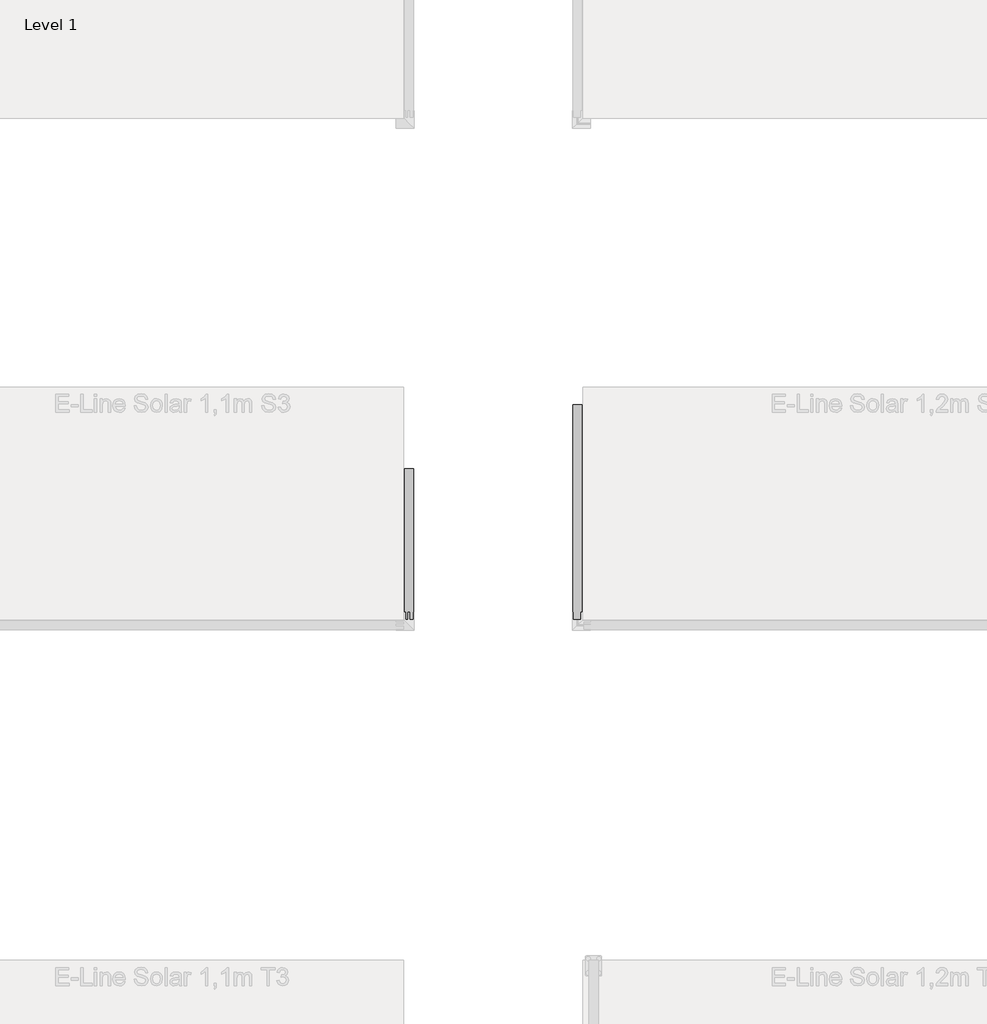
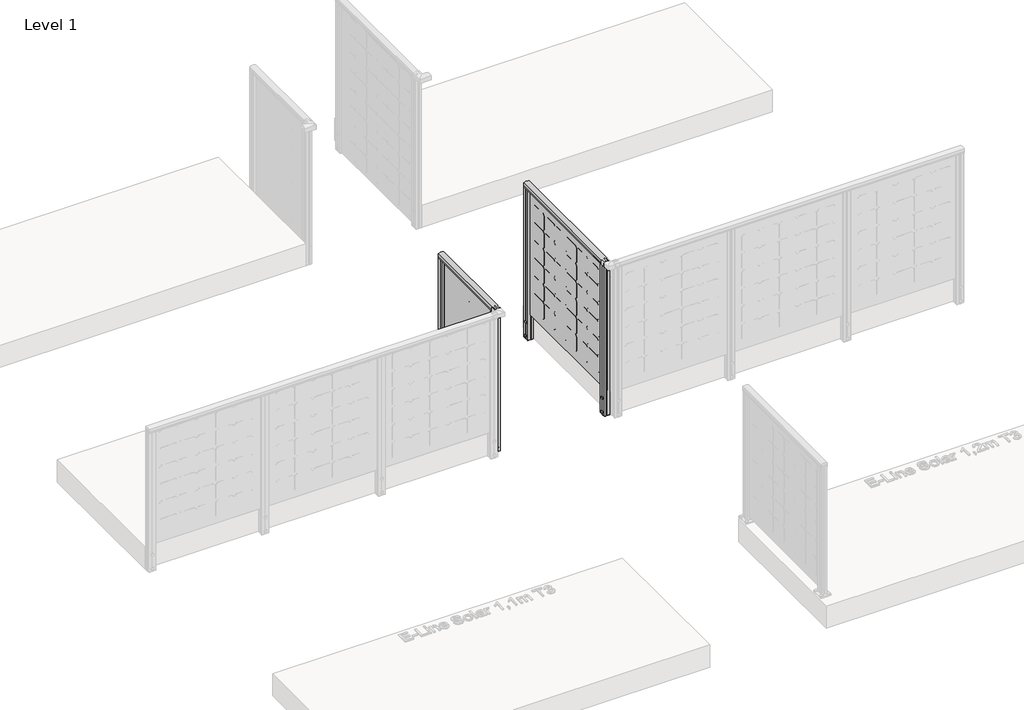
# One storey, part 40 of 66: 2 railings.
"""IFC4 building model written with IfcOpenShell, lengths in millimetres."""

from ifc_helpers import new_model, si_unit, point, frame, frame_2d, origin, place, context, project, spatial, polyline, circle_curve, trimmed, segment, composite_curve, outline, extrude, element, save

model = new_model("IFC4")

# Units and contexts
model_context = context("Model", 3, world=origin())
ifc_project = project(units=[si_unit("LENGTHUNIT", "METRE", prefix="MILLI")], contexts=[model_context])

# Site, building, storey
site = spatial("IfcSite", under=ifc_project)
building = spatial("IfcBuilding", under=site)
storey = spatial("IfcBuildingStorey", under=building, Name="Level 1", Elevation=0.0)

# Railings
placement = place(None, origin())
element("IfcRailing", 1, ObjectType="E-Line Solar 1,2m S3 6 columns of solar elements", at=placement, inside=storey, context=model_context, shape_type="SweptSolid", body=[
    extrude(outline(composite_curve([segment(trimmed(circle_curve(frame_2d((1142.6785502, 23265.8109342)), 57.3235687), [point((1194.1390059, 23291.0658945))], [point((1194.1342258, 23240.5462362))], False, "CARTESIAN"), True, "CONTINUOUS"), segment(polyline([(1194.1342258, 23240.5462362), (1167.0235023, 23240.5462362), (1166.4415706, 23241.128168), (1165.8194895, 23240.5060869), (1157.2498847, 23240.5060869), (1157.2498847, 23242.3110398), (1180.4998829, 23242.3110398), (1180.4998829, 23289.306086), (1157.2498847, 23289.306086), (1157.2498847, 23291.0658945), (1165.9694895, 23291.0658945), (1166.5842725, 23290.4511115), (1167.1990555, 23291.0658945), (1194.1390059, 23291.0658945)]), True, "CONTINUOUS")], self_intersect=False)), frame((0.0, 223.8815979, 0.0), z_axis=(0.0, 1.0, 0.0), x_axis=(0.0, 0.0, 1.0)), (0.0, 0.0, 1.0), 1195.0),
    extrude(outline(polyline([(23262.1463105, 1418.8815979), (23270.9063105, 1418.8815979), (23270.9063105, 223.8815979), (23262.1463105, 223.8815979), (23262.1463105, 1418.8815979)])), frame((0.0, 0.0, 28.0), z_axis=(0.0, 0.0, 1.0), x_axis=(1.0, 0.0, 0.0)), (0.0, 0.0, 1.0), 1152.0),
    extrude(outline(polyline([(0.0, 0.0), (-16.036927, 16.036927), (-16.036927, 139.963073), (0.0, 156.0), (123.9261459, 156.0), (139.963073, 139.963073), (139.963073, 16.036927), (123.9261459, 0.0), (0.0, 0.0)])), frame((23262.0263105, 1145.8815979, 1049.4156895), z_axis=(1.0, -5.811291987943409e-12, 0.0), x_axis=(0.0, 0.0, -1.0)), (0.0, 0.0, 1.0), 1.0),
    extrude(outline(polyline([(0.0, 0.0), (-16.036927, 16.036927), (-16.036927, 139.963073), (0.0, 156.0), (123.9261459, 156.0), (139.963073, 139.963073), (139.963073, 16.036927), (123.9261459, 0.0), (0.0, 0.0)])), frame((23262.0263105, 984.8815979, 1049.4156895), z_axis=(1.0, -5.811291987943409e-12, 0.0), x_axis=(0.0, 0.0, -1.0)), (0.0, 0.0, 1.0), 1.0),
    extrude(outline(polyline([(0.0, 0.0), (-16.036927, 16.036927), (-16.036927, 139.963073), (0.0, 156.0), (123.9261459, 156.0), (139.963073, 139.963073), (139.963073, 16.036927), (123.9261459, 0.0), (0.0, 0.0)])), frame((23262.0263105, 823.8815979, 1049.4156895), z_axis=(1.0, -5.811291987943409e-12, 0.0), x_axis=(0.0, 0.0, -1.0)), (0.0, 0.0, 1.0), 1.0),
    extrude(outline(polyline([(0.0, 0.0), (-16.036927, 16.036927), (-16.036927, 139.963073), (0.0, 156.0), (123.9261459, 156.0), (139.963073, 139.963073), (139.963073, 16.036927), (123.9261459, 0.0), (0.0, 0.0)])), frame((23262.0263105, 340.8815979, 1049.4156895), z_axis=(1.0, -5.811291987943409e-12, 0.0), x_axis=(0.0, 0.0, -1.0)), (0.0, 0.0, 1.0), 1.0),
    extrude(outline(polyline([(0.0, 0.0), (-16.036927, 16.036927), (-16.036927, 139.963073), (0.0, 156.0), (123.9261459, 156.0), (139.963073, 139.963073), (139.963073, 16.036927), (123.9261459, 0.0), (0.0, 0.0)])), frame((23262.0263105, 501.8815979, 1049.4156895), z_axis=(1.0, -5.811291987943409e-12, 0.0), x_axis=(0.0, 0.0, -1.0)), (0.0, 0.0, 1.0), 1.0),
    extrude(outline(polyline([(0.0, 0.0), (-16.036927, 16.036927), (-16.036927, 139.963073), (0.0, 156.0), (123.9261459, 156.0), (139.963073, 139.963073), (139.963073, 16.036927), (123.9261459, 0.0), (0.0, 0.0)])), frame((23262.0263105, 662.8815979, 1049.4156895), z_axis=(1.0, -5.811291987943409e-12, 0.0), x_axis=(0.0, 0.0, -1.0)), (0.0, 0.0, 1.0), 1.0),
    extrude(outline(polyline([(0.0, 0.0), (-16.036927, 16.036927), (-16.036927, 139.963073), (0.0, 156.0), (123.9261459, 156.0), (139.963073, 139.963073), (139.963073, 16.036927), (123.9261459, 0.0), (0.0, 0.0)])), frame((23262.0263105, 1145.8815979, 888.4156895), z_axis=(1.0, -5.811291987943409e-12, 0.0), x_axis=(0.0, 0.0, -1.0)), (0.0, 0.0, 1.0), 1.0),
    extrude(outline(polyline([(0.0, 0.0), (-16.036927, 16.036927), (-16.036927, 139.963073), (0.0, 156.0), (123.9261459, 156.0), (139.963073, 139.963073), (139.963073, 16.036927), (123.9261459, 0.0), (0.0, 0.0)])), frame((23262.0263105, 1145.8815979, 727.4156895), z_axis=(1.0, -5.811291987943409e-12, 0.0), x_axis=(0.0, 0.0, -1.0)), (0.0, 0.0, 1.0), 1.0),
    extrude(outline(polyline([(0.0, 0.0), (-16.036927, 16.036927), (-16.036927, 139.963073), (0.0, 156.0), (123.9261459, 156.0), (139.963073, 139.963073), (139.963073, 16.036927), (123.9261459, 0.0), (0.0, 0.0)])), frame((23262.0263105, 1145.8815979, 566.4156895), z_axis=(1.0, -5.811291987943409e-12, 0.0), x_axis=(0.0, 0.0, -1.0)), (0.0, 0.0, 1.0), 1.0),
    extrude(outline(polyline([(0.0, 0.0), (-16.036927, 16.036927), (-16.036927, 139.963073), (0.0, 156.0), (123.9261459, 156.0), (139.963073, 139.963073), (139.963073, 16.036927), (123.9261459, 0.0), (0.0, 0.0)])), frame((23262.0263105, 1145.8815979, 405.4156895), z_axis=(1.0, -5.811291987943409e-12, 0.0), x_axis=(0.0, 0.0, -1.0)), (0.0, 0.0, 1.0), 1.0),
    extrude(outline(polyline([(0.0, 0.0), (-16.036927, 16.036927), (-16.036927, 139.963073), (0.0, 156.0), (123.9261459, 156.0), (139.963073, 139.963073), (139.963073, 16.036927), (123.9261459, 0.0), (0.0, 0.0)])), frame((23262.0263105, 1145.8815979, 244.4156895), z_axis=(1.0, -5.811291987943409e-12, 0.0), x_axis=(0.0, 0.0, -1.0)), (0.0, 0.0, 1.0), 1.0),
    extrude(outline(polyline([(0.0, 0.0), (-16.036927, 16.036927), (-16.036927, 139.963073), (0.0, 156.0), (123.9261459, 156.0), (139.963073, 139.963073), (139.963073, 16.036927), (123.9261459, 0.0), (0.0, 0.0)])), frame((23262.0263105, 984.8815979, 888.4156895), z_axis=(1.0, -5.811291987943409e-12, 0.0), x_axis=(0.0, 0.0, -1.0)), (0.0, 0.0, 1.0), 1.0),
    extrude(outline(polyline([(0.0, 0.0), (-16.036927, 16.036927), (-16.036927, 139.963073), (0.0, 156.0), (123.9261459, 156.0), (139.963073, 139.963073), (139.963073, 16.036927), (123.9261459, 0.0), (0.0, 0.0)])), frame((23262.0263105, 984.8815979, 727.4156895), z_axis=(1.0, -5.811291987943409e-12, 0.0), x_axis=(0.0, 0.0, -1.0)), (0.0, 0.0, 1.0), 1.0),
    extrude(outline(polyline([(0.0, 0.0), (-16.036927, 16.036927), (-16.036927, 139.963073), (0.0, 156.0), (123.9261459, 156.0), (139.963073, 139.963073), (139.963073, 16.036927), (123.9261459, 0.0), (0.0, 0.0)])), frame((23262.0263105, 984.8815979, 566.4156895), z_axis=(1.0, -5.811291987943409e-12, 0.0), x_axis=(0.0, 0.0, -1.0)), (0.0, 0.0, 1.0), 1.0),
    extrude(outline(polyline([(0.0, 0.0), (-16.036927, 16.036927), (-16.036927, 139.963073), (0.0, 156.0), (123.9261459, 156.0), (139.963073, 139.963073), (139.963073, 16.036927), (123.9261459, 0.0), (0.0, 0.0)])), frame((23262.0263105, 984.8815979, 405.4156895), z_axis=(1.0, -5.811291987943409e-12, 0.0), x_axis=(0.0, 0.0, -1.0)), (0.0, 0.0, 1.0), 1.0),
    extrude(outline(polyline([(0.0, 0.0), (-16.036927, 16.036927), (-16.036927, 139.963073), (0.0, 156.0), (123.9261459, 156.0), (139.963073, 139.963073), (139.963073, 16.036927), (123.9261459, 0.0), (0.0, 0.0)])), frame((23262.0263105, 984.8815979, 244.4156895), z_axis=(1.0, -5.811291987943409e-12, 0.0), x_axis=(0.0, 0.0, -1.0)), (0.0, 0.0, 1.0), 1.0),
    extrude(outline(polyline([(0.0, 0.0), (-16.036927, 16.036927), (-16.036927, 139.963073), (0.0, 156.0), (123.9261459, 156.0), (139.963073, 139.963073), (139.963073, 16.036927), (123.9261459, 0.0), (0.0, 0.0)])), frame((23262.0263105, 823.8815979, 888.4156895), z_axis=(1.0, -5.811291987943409e-12, 0.0), x_axis=(0.0, 0.0, -1.0)), (0.0, 0.0, 1.0), 1.0),
    extrude(outline(polyline([(0.0, 0.0), (-16.036927, 16.036927), (-16.036927, 139.963073), (0.0, 156.0), (123.9261459, 156.0), (139.963073, 139.963073), (139.963073, 16.036927), (123.9261459, 0.0), (0.0, 0.0)])), frame((23262.0263105, 823.8815979, 727.4156895), z_axis=(1.0, -5.811291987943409e-12, 0.0), x_axis=(0.0, 0.0, -1.0)), (0.0, 0.0, 1.0), 1.0),
    extrude(outline(polyline([(0.0, 0.0), (-16.036927, 16.036927), (-16.036927, 139.963073), (0.0, 156.0), (123.9261459, 156.0), (139.963073, 139.963073), (139.963073, 16.036927), (123.9261459, 0.0), (0.0, 0.0)])), frame((23262.0263105, 823.8815979, 566.4156895), z_axis=(1.0, -5.811291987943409e-12, 0.0), x_axis=(0.0, 0.0, -1.0)), (0.0, 0.0, 1.0), 1.0),
    extrude(outline(polyline([(0.0, 0.0), (-16.036927, 16.036927), (-16.036927, 139.963073), (0.0, 156.0), (123.9261459, 156.0), (139.963073, 139.963073), (139.963073, 16.036927), (123.9261459, 0.0), (0.0, 0.0)])), frame((23262.0263105, 823.8815979, 405.4156895), z_axis=(1.0, -5.811291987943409e-12, 0.0), x_axis=(0.0, 0.0, -1.0)), (0.0, 0.0, 1.0), 1.0),
    extrude(outline(polyline([(0.0, 0.0), (-16.036927, 16.036927), (-16.036927, 139.963073), (0.0, 156.0), (123.9261459, 156.0), (139.963073, 139.963073), (139.963073, 16.036927), (123.9261459, 0.0), (0.0, 0.0)])), frame((23262.0263105, 823.8815979, 244.4156895), z_axis=(1.0, -5.811291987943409e-12, 0.0), x_axis=(0.0, 0.0, -1.0)), (0.0, 0.0, 1.0), 1.0),
    extrude(outline(polyline([(0.0, 0.0), (-16.036927, 16.036927), (-16.036927, 139.963073), (0.0, 156.0), (123.9261459, 156.0), (139.963073, 139.963073), (139.963073, 16.036927), (123.9261459, 0.0), (0.0, 0.0)])), frame((23262.0263105, 340.8815979, 888.4156895), z_axis=(1.0, -5.811291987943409e-12, 0.0), x_axis=(0.0, 0.0, -1.0)), (0.0, 0.0, 1.0), 1.0),
    extrude(outline(polyline([(0.0, 0.0), (-16.036927, 16.036927), (-16.036927, 139.963073), (0.0, 156.0), (123.9261459, 156.0), (139.963073, 139.963073), (139.963073, 16.036927), (123.9261459, 0.0), (0.0, 0.0)])), frame((23262.0263105, 340.8815979, 727.4156895), z_axis=(1.0, -5.811291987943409e-12, 0.0), x_axis=(0.0, 0.0, -1.0)), (0.0, 0.0, 1.0), 1.0),
    extrude(outline(polyline([(0.0, 0.0), (-16.036927, 16.036927), (-16.036927, 139.963073), (0.0, 156.0), (123.9261459, 156.0), (139.963073, 139.963073), (139.963073, 16.036927), (123.9261459, 0.0), (0.0, 0.0)])), frame((23262.0263105, 340.8815979, 566.4156895), z_axis=(1.0, -5.811291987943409e-12, 0.0), x_axis=(0.0, 0.0, -1.0)), (0.0, 0.0, 1.0), 1.0),
    extrude(outline(polyline([(0.0, 0.0), (-16.036927, 16.036927), (-16.036927, 139.963073), (0.0, 156.0), (123.9261459, 156.0), (139.963073, 139.963073), (139.963073, 16.036927), (123.9261459, 0.0), (0.0, 0.0)])), frame((23262.0263105, 340.8815979, 405.4156895), z_axis=(1.0, -5.811291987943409e-12, 0.0), x_axis=(0.0, 0.0, -1.0)), (0.0, 0.0, 1.0), 1.0),
    extrude(outline(polyline([(0.0, 0.0), (-16.036927, 16.036927), (-16.036927, 139.963073), (0.0, 156.0), (123.9261459, 156.0), (139.963073, 139.963073), (139.963073, 16.036927), (123.9261459, 0.0), (0.0, 0.0)])), frame((23262.0263105, 340.8815979, 244.4156895), z_axis=(1.0, -5.811291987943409e-12, 0.0), x_axis=(0.0, 0.0, -1.0)), (0.0, 0.0, 1.0), 1.0),
    extrude(outline(polyline([(0.0, 0.0), (-16.036927, 16.036927), (-16.036927, 139.963073), (0.0, 156.0), (123.9261459, 156.0), (139.963073, 139.963073), (139.963073, 16.036927), (123.9261459, 0.0), (0.0, 0.0)])), frame((23262.0263105, 501.8815979, 888.4156895), z_axis=(1.0, -5.811291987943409e-12, 0.0), x_axis=(0.0, 0.0, -1.0)), (0.0, 0.0, 1.0), 1.0),
    extrude(outline(polyline([(0.0, 0.0), (-16.036927, 16.036927), (-16.036927, 139.963073), (0.0, 156.0), (123.9261459, 156.0), (139.963073, 139.963073), (139.963073, 16.036927), (123.9261459, 0.0), (0.0, 0.0)])), frame((23262.0263105, 501.8815979, 727.4156895), z_axis=(1.0, -5.811291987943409e-12, 0.0), x_axis=(0.0, 0.0, -1.0)), (0.0, 0.0, 1.0), 1.0),
    extrude(outline(polyline([(0.0, 0.0), (-16.036927, 16.036927), (-16.036927, 139.963073), (0.0, 156.0), (123.9261459, 156.0), (139.963073, 139.963073), (139.963073, 16.036927), (123.9261459, 0.0), (0.0, 0.0)])), frame((23262.0263105, 501.8815979, 566.4156895), z_axis=(1.0, -5.811291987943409e-12, 0.0), x_axis=(0.0, 0.0, -1.0)), (0.0, 0.0, 1.0), 1.0),
    extrude(outline(polyline([(0.0, 0.0), (-16.036927, 16.036927), (-16.036927, 139.963073), (0.0, 156.0), (123.9261459, 156.0), (139.963073, 139.963073), (139.963073, 16.036927), (123.9261459, 0.0), (0.0, 0.0)])), frame((23262.0263105, 501.8815979, 405.4156895), z_axis=(1.0, -5.811291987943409e-12, 0.0), x_axis=(0.0, 0.0, -1.0)), (0.0, 0.0, 1.0), 1.0),
    extrude(outline(polyline([(0.0, 0.0), (-16.036927, 16.036927), (-16.036927, 139.963073), (0.0, 156.0), (123.9261459, 156.0), (139.963073, 139.963073), (139.963073, 16.036927), (123.9261459, 0.0), (0.0, 0.0)])), frame((23262.0263105, 501.8815979, 244.4156895), z_axis=(1.0, -5.811291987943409e-12, 0.0), x_axis=(0.0, 0.0, -1.0)), (0.0, 0.0, 1.0), 1.0),
    extrude(outline(polyline([(0.0, 0.0), (-16.036927, 16.036927), (-16.036927, 139.963073), (0.0, 156.0), (123.9261459, 156.0), (139.963073, 139.963073), (139.963073, 16.036927), (123.9261459, 0.0), (0.0, 0.0)])), frame((23262.0263105, 662.8815979, 888.4156895), z_axis=(1.0, -5.811291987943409e-12, 0.0), x_axis=(0.0, 0.0, -1.0)), (0.0, 0.0, 1.0), 1.0),
    extrude(outline(polyline([(0.0, 0.0), (-16.036927, 16.036927), (-16.036927, 139.963073), (0.0, 156.0), (123.9261459, 156.0), (139.963073, 139.963073), (139.963073, 16.036927), (123.9261459, 0.0), (0.0, 0.0)])), frame((23262.0263105, 662.8815979, 727.4156895), z_axis=(1.0, -5.811291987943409e-12, 0.0), x_axis=(0.0, 0.0, -1.0)), (0.0, 0.0, 1.0), 1.0),
    extrude(outline(polyline([(0.0, 0.0), (-16.036927, 16.036927), (-16.036927, 139.963073), (0.0, 156.0), (123.9261459, 156.0), (139.963073, 139.963073), (139.963073, 16.036927), (123.9261459, 0.0), (0.0, 0.0)])), frame((23262.0263105, 662.8815979, 566.4156895), z_axis=(1.0, -5.811291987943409e-12, 0.0), x_axis=(0.0, 0.0, -1.0)), (0.0, 0.0, 1.0), 1.0),
    extrude(outline(polyline([(0.0, 0.0), (-16.036927, 16.036927), (-16.036927, 139.963073), (0.0, 156.0), (123.9261459, 156.0), (139.963073, 139.963073), (139.963073, 16.036927), (123.9261459, 0.0), (0.0, 0.0)])), frame((23262.0263105, 662.8815979, 405.4156895), z_axis=(1.0, -5.811291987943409e-12, 0.0), x_axis=(0.0, 0.0, -1.0)), (0.0, 0.0, 1.0), 1.0),
    extrude(outline(polyline([(0.0, 0.0), (-16.036927, 16.036927), (-16.036927, 139.963073), (0.0, 156.0), (123.9261459, 156.0), (139.963073, 139.963073), (139.963073, 16.036927), (123.9261459, 0.0), (0.0, 0.0)])), frame((23262.0263105, 662.8815979, 244.4156895), z_axis=(1.0, -5.811291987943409e-12, 0.0), x_axis=(0.0, 0.0, -1.0)), (0.0, 0.0, 1.0), 1.0),
    extrude(outline(polyline([(23270.8721725, 223.883191), (23270.8747497, 241.3831908), (23262.1147498, 241.3844809), (23262.1121726, 223.8844811), (23244.0573652, 223.88714), (23244.0616532, 253.004127), (23244.9400753, 253.8822904), (23244.021743, 254.9201583), (23244.0260089, 283.8871452), (23262.1210087, 283.8844804), (23262.1184315, 266.3844806), (23270.8784314, 266.3831905), (23270.8810086, 283.8831903), (23288.9859597, 283.880524), (23288.9816865, 254.8640485), (23287.9932969, 253.87595), (23289.0214382, 252.8475058), (23289.0171723, 223.8805188), (23270.8721725, 223.883191)]), holes=[polyline([(23246.0202949, 262.6808129), (23246.0202949, 245.0868512), (23287.0228863, 245.0868512), (23287.0228863, 262.6808129), (23246.0202949, 262.6808129)]), polyline([(23272.878181, 281.8808127), (23272.878181, 264.682896), (23287.0257139, 264.682896), (23287.0257139, 281.8808127), (23272.878181, 281.8808127)]), polyline([(23246.0202949, 281.884775), (23246.0202949, 264.6868513), (23260.1207142, 264.6868513), (23260.1207142, 281.884775), (23246.0202949, 281.884775)]), polyline([(23272.872467, 243.0808132), (23272.872467, 225.8828965), (23287.0199999, 225.8828965), (23287.0199999, 243.0808132), (23272.872467, 243.0808132)]), polyline([(23245.9674673, 243.0847754), (23245.9674673, 225.8868587), (23260.1150002, 225.8868587), (23260.1150002, 243.0847754), (23245.9674673, 243.0847754)])]), frame((0.0, 0.0, -200.0), z_axis=(0.0, 0.0, 1.0), x_axis=(1.0, 0.0, 0.0)), (0.0, 0.0, 1.0), 1381.0),
    extrude(outline(polyline([(23270.8721725, 223.883191), (23270.8747497, 241.3831908), (23262.1147498, 241.3844809), (23262.1121726, 223.8844811), (23244.0573652, 223.88714), (23244.0616532, 253.004127), (23244.9400753, 253.8822904), (23244.021743, 254.9201583), (23244.0260089, 283.8871452), (23262.1210087, 283.8844804), (23262.1184315, 266.3844806), (23270.8784314, 266.3831905), (23270.8810086, 283.8831903), (23288.9859597, 283.880524), (23288.9816865, 254.8640485), (23287.9932969, 253.87595), (23289.0214382, 252.8475058), (23289.0171723, 223.8805188), (23270.8721725, 223.883191)])), frame((0.0, 0.0, -202.0233958), z_axis=(0.0, 0.0, 1.0), x_axis=(1.0, 0.0, 0.0)), (0.0, 0.0, 1.0), 2.0),
    extrude(outline(composite_curve([segment(trimmed(circle_curve(frame_2d((0.0, 12.0)), 12.0), [point((0.0, 23.9999999))], [point((0.0, 0.0))], False, "CARTESIAN"), True, "CONTINUOUS"), segment(trimmed(circle_curve(frame_2d((0.0, 12.0)), 12.0), [point((0.0, 0.0))], [point((0.0, 23.9999999))], False, "CARTESIAN"), True, "CONTINUOUS")], self_intersect=False)), frame((23244.0668454, 265.8906355, -175.0), z_axis=(-0.9999999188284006, 0.0004029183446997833, 0.0), x_axis=(0.0, 0.0, -1.0)), (0.0, 0.0, 1.0), 3.0757477),
    extrude(outline(composite_curve([segment(trimmed(circle_curve(frame_2d((0.0, 12.0)), 12.0), [point((0.0, 23.9999999))], [point((0.0, 0.0))], False, "CARTESIAN"), True, "CONTINUOUS"), segment(trimmed(circle_curve(frame_2d((0.0, 12.0)), 12.0), [point((0.0, 0.0))], [point((0.0, 23.9999999))], False, "CARTESIAN"), True, "CONTINUOUS")], self_intersect=False)), frame((23244.0668454, 265.8906355, -50.0), z_axis=(-0.9999999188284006, 0.0004029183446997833, 0.0), x_axis=(0.0, 0.0, -1.0)), (0.0, 0.0, 1.0), 3.0757477),
    extrude(outline(polyline([(23270.8721725, 1358.883191), (23270.8747497, 1376.3831908), (23262.1147498, 1376.3844809), (23262.1121726, 1358.8844811), (23244.0573652, 1358.88714), (23244.0616532, 1388.004127), (23244.9400753, 1388.8822904), (23244.021743, 1389.9201583), (23244.0260089, 1418.8871452), (23262.1210087, 1418.8844804), (23262.1184315, 1401.3844806), (23270.8784314, 1401.3831905), (23270.8810086, 1418.8831903), (23288.9859597, 1418.880524), (23288.9816865, 1389.8640485), (23287.9932969, 1388.87595), (23289.0214382, 1387.8475058), (23289.0171723, 1358.8805188), (23270.8721725, 1358.883191)]), holes=[polyline([(23246.0202949, 1397.6808129), (23246.0202949, 1380.0868512), (23287.0228863, 1380.0868512), (23287.0228863, 1397.6808129), (23246.0202949, 1397.6808129)]), polyline([(23272.878181, 1416.8808127), (23272.878181, 1399.682896), (23287.0257139, 1399.682896), (23287.0257139, 1416.8808127), (23272.878181, 1416.8808127)]), polyline([(23246.0202949, 1416.884775), (23246.0202949, 1399.6868513), (23260.1207142, 1399.6868513), (23260.1207142, 1416.884775), (23246.0202949, 1416.884775)]), polyline([(23272.872467, 1378.0808132), (23272.872467, 1360.8828965), (23287.0199999, 1360.8828965), (23287.0199999, 1378.0808132), (23272.872467, 1378.0808132)]), polyline([(23245.9674673, 1378.0847754), (23245.9674673, 1360.8868587), (23260.1150002, 1360.8868587), (23260.1150002, 1378.0847754), (23245.9674673, 1378.0847754)])]), frame((0.0, 0.0, -200.0), z_axis=(0.0, 0.0, 1.0), x_axis=(1.0, 0.0, 0.0)), (0.0, 0.0, 1.0), 1381.0),
    extrude(outline(polyline([(23270.8721725, 1358.883191), (23270.8747497, 1376.3831908), (23262.1147498, 1376.3844809), (23262.1121726, 1358.8844811), (23244.0573652, 1358.88714), (23244.0616532, 1388.004127), (23244.9400753, 1388.8822904), (23244.021743, 1389.9201583), (23244.0260089, 1418.8871452), (23262.1210087, 1418.8844804), (23262.1184315, 1401.3844806), (23270.8784314, 1401.3831905), (23270.8810086, 1418.8831903), (23288.9859597, 1418.880524), (23288.9816865, 1389.8640485), (23287.9932969, 1388.87595), (23289.0214382, 1387.8475058), (23289.0171723, 1358.8805188), (23270.8721725, 1358.883191)])), frame((0.0, 0.0, -202.0233958), z_axis=(0.0, 0.0, 1.0), x_axis=(1.0, 0.0, 0.0)), (0.0, 0.0, 1.0), 2.0),
    extrude(outline(composite_curve([segment(trimmed(circle_curve(frame_2d((0.0, 12.0)), 12.0), [point((0.0, 23.9999999))], [point((0.0, 0.0))], False, "CARTESIAN"), True, "CONTINUOUS"), segment(trimmed(circle_curve(frame_2d((0.0, 12.0)), 12.0), [point((0.0, 0.0))], [point((0.0, 23.9999999))], False, "CARTESIAN"), True, "CONTINUOUS")], self_intersect=False)), frame((23244.0668454, 1400.8906355, -175.0), z_axis=(-0.9999999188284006, 0.0004029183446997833, 0.0), x_axis=(0.0, 0.0, -1.0)), (0.0, 0.0, 1.0), 3.0757477),
    extrude(outline(composite_curve([segment(trimmed(circle_curve(frame_2d((0.0, 12.0)), 12.0), [point((0.0, 23.9999999))], [point((0.0, 0.0))], False, "CARTESIAN"), True, "CONTINUOUS"), segment(trimmed(circle_curve(frame_2d((0.0, 12.0)), 12.0), [point((0.0, 0.0))], [point((0.0, 23.9999999))], False, "CARTESIAN"), True, "CONTINUOUS")], self_intersect=False)), frame((23244.0668454, 1400.8906355, -50.0), z_axis=(-0.9999999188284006, 0.0004029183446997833, 0.0), x_axis=(0.0, 0.0, -1.0)), (0.0, 0.0, 1.0), 3.0757477),
])
element("IfcRailing", 2, ObjectType="E-Line Solar 1,1m S3 4 columns of solar elements", at=placement, inside=storey, context=model_context, shape_type="SweptSolid", body=[
    extrude(outline(composite_curve([segment(trimmed(circle_curve(frame_2d((1042.6785502, 22327.2511266)), 57.3235687), [point((1094.1390059, 22352.5060869))], [point((1094.1342258, 22301.9864286))], False, "CARTESIAN"), True, "CONTINUOUS"), segment(polyline([(1094.1342258, 22301.9864286), (1067.0235023, 22301.9864286), (1066.4415706, 22302.5683604), (1065.8194895, 22301.9462793), (1057.2498847, 22301.9462793), (1057.2498847, 22303.7512322), (1080.4998829, 22303.7512322), (1080.4998829, 22350.7462783), (1057.2498847, 22350.7462783), (1057.2498847, 22352.5060869), (1065.9694895, 22352.5060869), (1066.5842725, 22351.8913039), (1067.1990555, 22352.5060869), (1094.1390059, 22352.5060869)]), True, "CONTINUOUS")], self_intersect=False)), frame((0.0, 223.8815979, 0.0), z_axis=(0.0, 1.0, 0.0), x_axis=(0.0, 0.0, 1.0)), (0.0, 0.0, 1.0), 840.0),
    extrude(outline(polyline([(22322.1463105, 1063.8815979), (22330.9063105, 1063.8815979), (22330.9063105, 223.8815979), (22322.1463105, 223.8815979), (22322.1463105, 1063.8815979)])), frame((0.0, 0.0, 28.0), z_axis=(0.0, 0.0, 1.0), x_axis=(1.0, 0.0, 0.0)), (0.0, 0.0, 1.0), 1052.0),
    extrude(outline(polyline([(0.0, 0.0), (16.036927, -16.036927), (16.036927, -139.963073), (0.0, -156.0), (-123.9261459, -156.0), (-139.963073, -139.963073), (-139.963073, -16.036927), (-123.9261459, 0.0), (0.0, 0.0)])), frame((22330.0263105, 807.3815979, 1024.4156895), z_axis=(1.0, 5.811291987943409e-12, 0.0), x_axis=(0.0, 0.0, 1.0)), (0.0, 0.0, 1.0), 1.0),
    extrude(outline(polyline([(0.0, 0.0), (16.036927, -16.036927), (16.036927, -139.963073), (0.0, -156.0), (-123.9261459, -156.0), (-139.963073, -139.963073), (-139.963073, -16.036927), (-123.9261459, 0.0), (0.0, 0.0)])), frame((22330.0263105, 646.3815979, 1024.4156895), z_axis=(1.0, 5.811291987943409e-12, 0.0), x_axis=(0.0, 0.0, 1.0)), (0.0, 0.0, 1.0), 1.0),
    extrude(outline(polyline([(0.0, 0.0), (16.036927, -16.036927), (16.036927, -139.963073), (0.0, -156.0), (-123.9261459, -156.0), (-139.963073, -139.963073), (-139.963073, -16.036927), (-123.9261459, 0.0), (0.0, 0.0)])), frame((22330.0263105, 324.3815979, 1024.4156895), z_axis=(1.0, 5.811291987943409e-12, 0.0), x_axis=(0.0, 0.0, 1.0)), (0.0, 0.0, 1.0), 1.0),
    extrude(outline(polyline([(0.0, 0.0), (16.036927, -16.036927), (16.036927, -139.963073), (0.0, -156.0), (-123.9261459, -156.0), (-139.963073, -139.963073), (-139.963073, -16.036927), (-123.9261459, 0.0), (0.0, 0.0)])), frame((22330.0263105, 485.3815979, 1024.4156895), z_axis=(1.0, 5.811291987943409e-12, 0.0), x_axis=(0.0, 0.0, 1.0)), (0.0, 0.0, 1.0), 1.0),
    extrude(outline(polyline([(0.0, 0.0), (16.036927, -16.036927), (16.036927, -139.963073), (0.0, -156.0), (-123.9261459, -156.0), (-139.963073, -139.963073), (-139.963073, -16.036927), (-123.9261459, 0.0), (0.0, 0.0)])), frame((22330.0263105, 807.3815979, 863.4156895), z_axis=(1.0, 5.811291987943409e-12, 0.0), x_axis=(0.0, 0.0, 1.0)), (0.0, 0.0, 1.0), 1.0),
    extrude(outline(polyline([(0.0, 0.0), (16.036927, -16.036927), (16.036927, -139.963073), (0.0, -156.0), (-123.9261459, -156.0), (-139.963073, -139.963073), (-139.963073, -16.036927), (-123.9261459, 0.0), (0.0, 0.0)])), frame((22330.0263105, 807.3815979, 702.4156895), z_axis=(1.0, 5.811291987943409e-12, 0.0), x_axis=(0.0, 0.0, 1.0)), (0.0, 0.0, 1.0), 1.0),
    extrude(outline(polyline([(0.0, 0.0), (16.036927, -16.036927), (16.036927, -139.963073), (0.0, -156.0), (-123.9261459, -156.0), (-139.963073, -139.963073), (-139.963073, -16.036927), (-123.9261459, 0.0), (0.0, 0.0)])), frame((22330.0263105, 807.3815979, 541.4156895), z_axis=(1.0, 5.811291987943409e-12, 0.0), x_axis=(0.0, 0.0, 1.0)), (0.0, 0.0, 1.0), 1.0),
    extrude(outline(polyline([(0.0, 0.0), (16.036927, -16.036927), (16.036927, -139.963073), (0.0, -156.0), (-123.9261459, -156.0), (-139.963073, -139.963073), (-139.963073, -16.036927), (-123.9261459, 0.0), (0.0, 0.0)])), frame((22330.0263105, 807.3815979, 380.4156895), z_axis=(1.0, 5.811291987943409e-12, 0.0), x_axis=(0.0, 0.0, 1.0)), (0.0, 0.0, 1.0), 1.0),
    extrude(outline(polyline([(0.0, 0.0), (16.036927, -16.036927), (16.036927, -139.963073), (0.0, -156.0), (-123.9261459, -156.0), (-139.963073, -139.963073), (-139.963073, -16.036927), (-123.9261459, 0.0), (0.0, 0.0)])), frame((22330.0263105, 807.3815979, 219.4156895), z_axis=(1.0, 5.811291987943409e-12, 0.0), x_axis=(0.0, 0.0, 1.0)), (0.0, 0.0, 1.0), 1.0),
    extrude(outline(polyline([(0.0, 0.0), (16.036927, -16.036927), (16.036927, -139.963073), (0.0, -156.0), (-123.9261459, -156.0), (-139.963073, -139.963073), (-139.963073, -16.036927), (-123.9261459, 0.0), (0.0, 0.0)])), frame((22330.0263105, 646.3815979, 863.4156895), z_axis=(1.0, 5.811291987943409e-12, 0.0), x_axis=(0.0, 0.0, 1.0)), (0.0, 0.0, 1.0), 1.0),
    extrude(outline(polyline([(0.0, 0.0), (16.036927, -16.036927), (16.036927, -139.963073), (0.0, -156.0), (-123.9261459, -156.0), (-139.963073, -139.963073), (-139.963073, -16.036927), (-123.9261459, 0.0), (0.0, 0.0)])), frame((22330.0263105, 646.3815979, 702.4156895), z_axis=(1.0, 5.811291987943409e-12, 0.0), x_axis=(0.0, 0.0, 1.0)), (0.0, 0.0, 1.0), 1.0),
    extrude(outline(polyline([(0.0, 0.0), (16.036927, -16.036927), (16.036927, -139.963073), (0.0, -156.0), (-123.9261459, -156.0), (-139.963073, -139.963073), (-139.963073, -16.036927), (-123.9261459, 0.0), (0.0, 0.0)])), frame((22330.0263105, 646.3815979, 541.4156895), z_axis=(1.0, 5.811291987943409e-12, 0.0), x_axis=(0.0, 0.0, 1.0)), (0.0, 0.0, 1.0), 1.0),
    extrude(outline(polyline([(0.0, 0.0), (16.036927, -16.036927), (16.036927, -139.963073), (0.0, -156.0), (-123.9261459, -156.0), (-139.963073, -139.963073), (-139.963073, -16.036927), (-123.9261459, 0.0), (0.0, 0.0)])), frame((22330.0263105, 646.3815979, 380.4156895), z_axis=(1.0, 5.811291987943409e-12, 0.0), x_axis=(0.0, 0.0, 1.0)), (0.0, 0.0, 1.0), 1.0),
    extrude(outline(polyline([(0.0, 0.0), (16.036927, -16.036927), (16.036927, -139.963073), (0.0, -156.0), (-123.9261459, -156.0), (-139.963073, -139.963073), (-139.963073, -16.036927), (-123.9261459, 0.0), (0.0, 0.0)])), frame((22330.0263105, 646.3815979, 219.4156895), z_axis=(1.0, 5.811291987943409e-12, 0.0), x_axis=(0.0, 0.0, 1.0)), (0.0, 0.0, 1.0), 1.0),
    extrude(outline(polyline([(0.0, 0.0), (16.036927, -16.036927), (16.036927, -139.963073), (0.0, -156.0), (-123.9261459, -156.0), (-139.963073, -139.963073), (-139.963073, -16.036927), (-123.9261459, 0.0), (0.0, 0.0)])), frame((22330.0263105, 324.3815979, 863.4156895), z_axis=(1.0, 5.811291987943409e-12, 0.0), x_axis=(0.0, 0.0, 1.0)), (0.0, 0.0, 1.0), 1.0),
    extrude(outline(polyline([(0.0, 0.0), (16.036927, -16.036927), (16.036927, -139.963073), (0.0, -156.0), (-123.9261459, -156.0), (-139.963073, -139.963073), (-139.963073, -16.036927), (-123.9261459, 0.0), (0.0, 0.0)])), frame((22330.0263105, 324.3815979, 702.4156895), z_axis=(1.0, 5.811291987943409e-12, 0.0), x_axis=(0.0, 0.0, 1.0)), (0.0, 0.0, 1.0), 1.0),
    extrude(outline(polyline([(0.0, 0.0), (16.036927, -16.036927), (16.036927, -139.963073), (0.0, -156.0), (-123.9261459, -156.0), (-139.963073, -139.963073), (-139.963073, -16.036927), (-123.9261459, 0.0), (0.0, 0.0)])), frame((22330.0263105, 324.3815979, 541.4156895), z_axis=(1.0, 5.811291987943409e-12, 0.0), x_axis=(0.0, 0.0, 1.0)), (0.0, 0.0, 1.0), 1.0),
    extrude(outline(polyline([(0.0, 0.0), (16.036927, -16.036927), (16.036927, -139.963073), (0.0, -156.0), (-123.9261459, -156.0), (-139.963073, -139.963073), (-139.963073, -16.036927), (-123.9261459, 0.0), (0.0, 0.0)])), frame((22330.0263105, 324.3815979, 380.4156895), z_axis=(1.0, 5.811291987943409e-12, 0.0), x_axis=(0.0, 0.0, 1.0)), (0.0, 0.0, 1.0), 1.0),
    extrude(outline(polyline([(0.0, 0.0), (16.036927, -16.036927), (16.036927, -139.963073), (0.0, -156.0), (-123.9261459, -156.0), (-139.963073, -139.963073), (-139.963073, -16.036927), (-123.9261459, 0.0), (0.0, 0.0)])), frame((22330.0263105, 324.3815979, 219.4156895), z_axis=(1.0, 5.811291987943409e-12, 0.0), x_axis=(0.0, 0.0, 1.0)), (0.0, 0.0, 1.0), 1.0),
    extrude(outline(polyline([(0.0, 0.0), (16.036927, -16.036927), (16.036927, -139.963073), (0.0, -156.0), (-123.9261459, -156.0), (-139.963073, -139.963073), (-139.963073, -16.036927), (-123.9261459, 0.0), (0.0, 0.0)])), frame((22330.0263105, 485.3815979, 863.4156895), z_axis=(1.0, 5.811291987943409e-12, 0.0), x_axis=(0.0, 0.0, 1.0)), (0.0, 0.0, 1.0), 1.0),
    extrude(outline(polyline([(0.0, 0.0), (16.036927, -16.036927), (16.036927, -139.963073), (0.0, -156.0), (-123.9261459, -156.0), (-139.963073, -139.963073), (-139.963073, -16.036927), (-123.9261459, 0.0), (0.0, 0.0)])), frame((22330.0263105, 485.3815979, 702.4156895), z_axis=(1.0, 5.811291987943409e-12, 0.0), x_axis=(0.0, 0.0, 1.0)), (0.0, 0.0, 1.0), 1.0),
    extrude(outline(polyline([(0.0, 0.0), (16.036927, -16.036927), (16.036927, -139.963073), (0.0, -156.0), (-123.9261459, -156.0), (-139.963073, -139.963073), (-139.963073, -16.036927), (-123.9261459, 0.0), (0.0, 0.0)])), frame((22330.0263105, 485.3815979, 541.4156895), z_axis=(1.0, 5.811291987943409e-12, 0.0), x_axis=(0.0, 0.0, 1.0)), (0.0, 0.0, 1.0), 1.0),
    extrude(outline(polyline([(0.0, 0.0), (16.036927, -16.036927), (16.036927, -139.963073), (0.0, -156.0), (-123.9261459, -156.0), (-139.963073, -139.963073), (-139.963073, -16.036927), (-123.9261459, 0.0), (0.0, 0.0)])), frame((22330.0263105, 485.3815979, 380.4156895), z_axis=(1.0, 5.811291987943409e-12, 0.0), x_axis=(0.0, 0.0, 1.0)), (0.0, 0.0, 1.0), 1.0),
    extrude(outline(polyline([(0.0, 0.0), (16.036927, -16.036927), (16.036927, -139.963073), (0.0, -156.0), (-123.9261459, -156.0), (-139.963073, -139.963073), (-139.963073, -16.036927), (-123.9261459, 0.0), (0.0, 0.0)])), frame((22330.0263105, 485.3815979, 219.4156895), z_axis=(1.0, 5.811291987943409e-12, 0.0), x_axis=(0.0, 0.0, 1.0)), (0.0, 0.0, 1.0), 1.0),
    extrude(outline(polyline([(22322.1804485, 223.883191), (22304.0354487, 223.8805188), (22304.0311828, 252.8475058), (22305.0593241, 253.87595), (22304.0709345, 254.8640485), (22304.0666613, 283.880524), (22322.1716124, 283.8831903), (22322.1741896, 266.3831905), (22330.9341895, 266.3844806), (22330.9316123, 283.8844804), (22349.0266121, 283.8871452), (22349.030878, 254.9201583), (22348.1125457, 253.8822904), (22348.9909678, 253.004127), (22348.9952559, 223.88714), (22330.9404484, 223.8844811), (22330.9378712, 241.3844809), (22322.1778713, 241.3831908), (22322.1804485, 223.883191)]), holes=[polyline([(22347.0323262, 262.6808129), (22306.0297347, 262.6808129), (22306.0297347, 245.0868512), (22347.0323262, 245.0868512), (22347.0323262, 262.6808129)]), polyline([(22320.17444, 281.8808127), (22306.0269071, 281.8808127), (22306.0269071, 264.682896), (22320.17444, 264.682896), (22320.17444, 281.8808127)]), polyline([(22347.0323262, 281.884775), (22332.9319068, 281.884775), (22332.9319068, 264.6868513), (22347.0323262, 264.6868513), (22347.0323262, 281.884775)]), polyline([(22320.180154, 243.0808132), (22306.0326211, 243.0808132), (22306.0326211, 225.8828965), (22320.180154, 225.8828965), (22320.180154, 243.0808132)]), polyline([(22347.0851537, 243.0847754), (22332.9376209, 243.0847754), (22332.9376209, 225.8868587), (22347.0851537, 225.8868587), (22347.0851537, 243.0847754)])]), frame((0.0, 0.0, -200.0), z_axis=(0.0, 0.0, 1.0), x_axis=(1.0, 0.0, 0.0)), (0.0, 0.0, 1.0), 1281.0),
    extrude(outline(polyline([(22322.1804485, 223.883191), (22304.0354487, 223.8805188), (22304.0311828, 252.8475058), (22305.0593241, 253.87595), (22304.0709345, 254.8640485), (22304.0666613, 283.880524), (22322.1716124, 283.8831903), (22322.1741896, 266.3831905), (22330.9341895, 266.3844806), (22330.9316123, 283.8844804), (22349.0266121, 283.8871452), (22349.030878, 254.9201583), (22348.1125457, 253.8822904), (22348.9909678, 253.004127), (22348.9952559, 223.88714), (22330.9404484, 223.8844811), (22330.9378712, 241.3844809), (22322.1778713, 241.3831908), (22322.1804485, 223.883191)])), frame((0.0, 0.0, -202.0233958), z_axis=(0.0, 0.0, 1.0), x_axis=(1.0, 0.0, 0.0)), (0.0, 0.0, 1.0), 2.0),
    extrude(outline(composite_curve([segment(trimmed(circle_curve(frame_2d((0.0, -12.0)), 12.0), [point((0.0, -23.9999999))], [point((0.0, 0.0))], False, "CARTESIAN"), True, "CONTINUOUS"), segment(trimmed(circle_curve(frame_2d((0.0, -12.0)), 12.0), [point((0.0, 0.0))], [point((0.0, -23.9999999))], False, "CARTESIAN"), True, "CONTINUOUS")], self_intersect=False)), frame((22348.9857756, 265.8906355, -175.0), z_axis=(0.9999999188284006, 0.0004029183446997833, 0.0), x_axis=(0.0, 0.0, -1.0)), (0.0, 0.0, 1.0), 3.0757477),
    extrude(outline(composite_curve([segment(trimmed(circle_curve(frame_2d((0.0, -12.0)), 12.0), [point((0.0, -23.9999999))], [point((0.0, 0.0))], False, "CARTESIAN"), True, "CONTINUOUS"), segment(trimmed(circle_curve(frame_2d((0.0, -12.0)), 12.0), [point((0.0, 0.0))], [point((0.0, -23.9999999))], False, "CARTESIAN"), True, "CONTINUOUS")], self_intersect=False)), frame((22348.9857756, 265.8906355, -50.0), z_axis=(0.9999999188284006, 0.0004029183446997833, 0.0), x_axis=(0.0, 0.0, -1.0)), (0.0, 0.0, 1.0), 3.0757477),
    extrude(outline(polyline([(22322.1804485, 1003.883191), (22304.0354487, 1003.8805188), (22304.0311828, 1032.8475058), (22305.0593241, 1033.87595), (22304.0709345, 1034.8640485), (22304.0666613, 1063.880524), (22322.1716124, 1063.8831903), (22322.1741896, 1046.3831905), (22330.9341895, 1046.3844806), (22330.9316123, 1063.8844804), (22349.0266121, 1063.8871452), (22349.030878, 1034.9201583), (22348.1125457, 1033.8822904), (22348.9909678, 1033.004127), (22348.9952559, 1003.88714), (22330.9404484, 1003.8844811), (22330.9378712, 1021.3844809), (22322.1778713, 1021.3831908), (22322.1804485, 1003.883191)]), holes=[polyline([(22347.0323262, 1042.6808129), (22306.0297347, 1042.6808129), (22306.0297347, 1025.0868512), (22347.0323262, 1025.0868512), (22347.0323262, 1042.6808129)]), polyline([(22320.17444, 1061.8808127), (22306.0269071, 1061.8808127), (22306.0269071, 1044.682896), (22320.17444, 1044.682896), (22320.17444, 1061.8808127)]), polyline([(22347.0323262, 1061.884775), (22332.9319068, 1061.884775), (22332.9319068, 1044.6868513), (22347.0323262, 1044.6868513), (22347.0323262, 1061.884775)]), polyline([(22320.180154, 1023.0808132), (22306.0326211, 1023.0808132), (22306.0326211, 1005.8828965), (22320.180154, 1005.8828965), (22320.180154, 1023.0808132)]), polyline([(22347.0851537, 1023.0847754), (22332.9376209, 1023.0847754), (22332.9376209, 1005.8868587), (22347.0851537, 1005.8868587), (22347.0851537, 1023.0847754)])]), frame((0.0, 0.0, -200.0), z_axis=(0.0, 0.0, 1.0), x_axis=(1.0, 0.0, 0.0)), (0.0, 0.0, 1.0), 1281.0),
    extrude(outline(polyline([(22322.1804485, 1003.883191), (22304.0354487, 1003.8805188), (22304.0311828, 1032.8475058), (22305.0593241, 1033.87595), (22304.0709345, 1034.8640485), (22304.0666613, 1063.880524), (22322.1716124, 1063.8831903), (22322.1741896, 1046.3831905), (22330.9341895, 1046.3844806), (22330.9316123, 1063.8844804), (22349.0266121, 1063.8871452), (22349.030878, 1034.9201583), (22348.1125457, 1033.8822904), (22348.9909678, 1033.004127), (22348.9952559, 1003.88714), (22330.9404484, 1003.8844811), (22330.9378712, 1021.3844809), (22322.1778713, 1021.3831908), (22322.1804485, 1003.883191)])), frame((0.0, 0.0, -202.0233958), z_axis=(0.0, 0.0, 1.0), x_axis=(1.0, 0.0, 0.0)), (0.0, 0.0, 1.0), 2.0),
    extrude(outline(composite_curve([segment(trimmed(circle_curve(frame_2d((0.0, -12.0)), 12.0), [point((0.0, -23.9999999))], [point((0.0, 0.0))], False, "CARTESIAN"), True, "CONTINUOUS"), segment(trimmed(circle_curve(frame_2d((0.0, -12.0)), 12.0), [point((0.0, 0.0))], [point((0.0, -23.9999999))], False, "CARTESIAN"), True, "CONTINUOUS")], self_intersect=False)), frame((22348.9857756, 1045.8906355, -175.0), z_axis=(0.9999999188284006, 0.0004029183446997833, 0.0), x_axis=(0.0, 0.0, -1.0)), (0.0, 0.0, 1.0), 3.0757477),
    extrude(outline(composite_curve([segment(trimmed(circle_curve(frame_2d((0.0, -12.0)), 12.0), [point((0.0, -23.9999999))], [point((0.0, 0.0))], False, "CARTESIAN"), True, "CONTINUOUS"), segment(trimmed(circle_curve(frame_2d((0.0, -12.0)), 12.0), [point((0.0, 0.0))], [point((0.0, -23.9999999))], False, "CARTESIAN"), True, "CONTINUOUS")], self_intersect=False)), frame((22348.9857756, 1045.8906355, -50.0), z_axis=(0.9999999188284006, 0.0004029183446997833, 0.0), x_axis=(0.0, 0.0, -1.0)), (0.0, 0.0, 1.0), 3.0757477),
])

save(model, "model.ifc")
